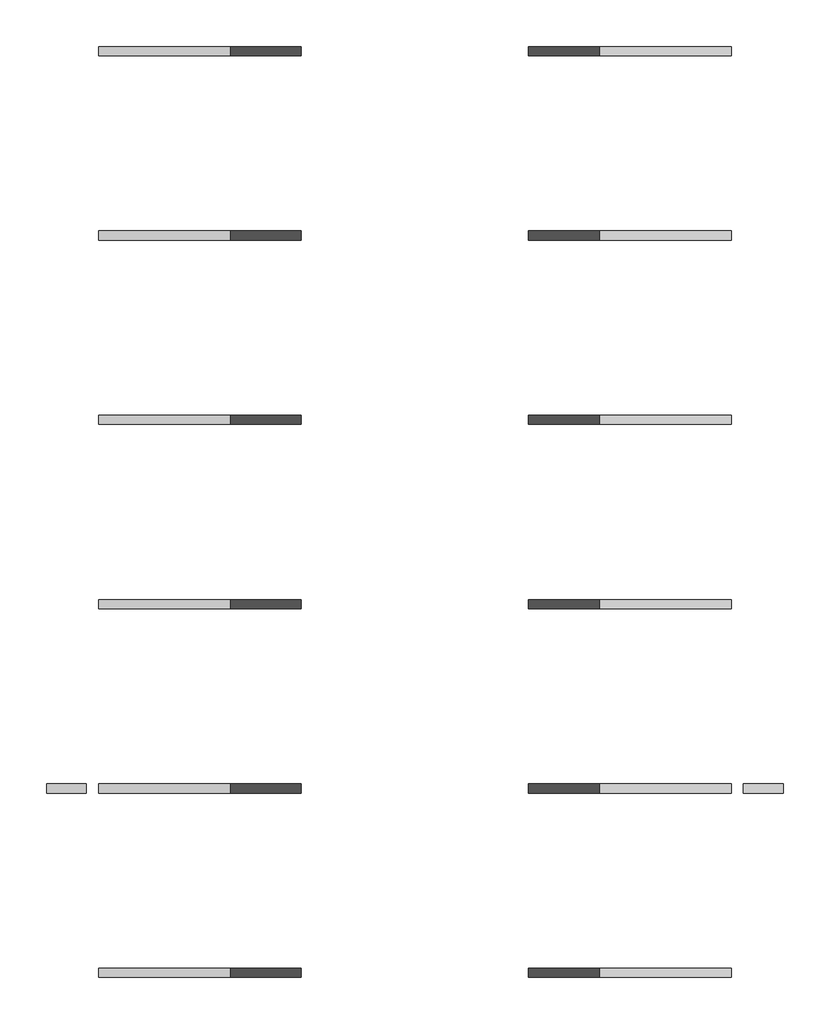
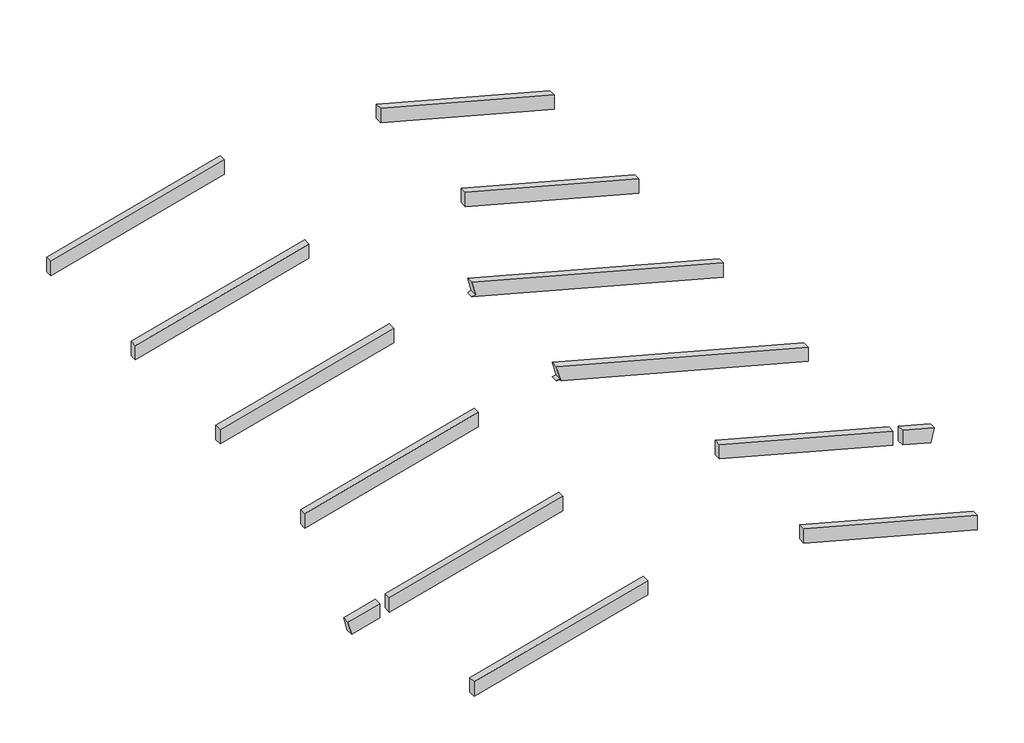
# One storey: 14 beams.
"""IFC4 building model written with IfcOpenShell, lengths in millimetres."""

from ifc_helpers import new_model, si_unit, frame, origin, place, context, project, spatial, polyline, outline, extrude, element, save

model = new_model("IFC4")

# Units and contexts
model_context = context("Model", 3, world=origin())
ifc_project = project(units=[si_unit("LENGTHUNIT", "METRE", prefix="MILLI")], contexts=[model_context])

# Site, building, storey
site = spatial("IfcSite", under=ifc_project)
building = spatial("IfcBuilding", under=site)
storey = spatial("IfcBuildingStorey", under=building, Name="Đỉnh cột +7.200", Elevation=7200.0)

# Beams
placement = place(None, origin())
element("IfcBeam", 1, ObjectType="@BS-Concrete Beam : D300x600", at=placement, inside=storey, context=model_context, shape_type="SweptSolid", body=[
    extrude(outline(polyline([(7253.5898385, 200.0), (6632.4241302, 200.0), (8534.8633965, 7300.0), (9156.0291047, 7300.0), (7253.5898385, 200.0)])), frame((0.0, -150.0, 0.0), z_axis=(0.0, 1.0, 0.0), x_axis=(0.0, 0.0, 1.0)), (0.0, 0.0, 1.0), 300.0),
])
element("IfcBeam", 2, ObjectType="@BS-Concrete Beam : D300x600", at=placement, inside=storey, context=model_context, shape_type="SweptSolid", body=[
    extrude(outline(polyline([(9156.0291047, 13700.0), (8534.8633965, 13700.0), (6632.4241302, 20800.0), (7253.5898385, 20800.0), (9156.0291047, 13700.0)])), frame((0.0, -150.0, 0.0), z_axis=(0.0, 1.0, 0.0), x_axis=(0.0, 0.0, 1.0)), (0.0, 0.0, 1.0), 300.0),
])
element("IfcBeam", 3, ObjectType="@BS-Concrete Beam : D300x600", at=placement, inside=storey, context=model_context, shape_type="SweptSolid", body=[
    extrude(outline(polyline([(7253.5898385, 200.0), (6632.4241302, 200.0), (8534.8633965, 7300.0), (9156.0291047, 7300.0), (7253.5898385, 200.0)])), frame((0.0, 5850.0, 0.0), z_axis=(0.0, 1.0, 0.0), x_axis=(0.0, 0.0, 1.0)), (0.0, 0.0, 1.0), 300.0),
])
element("IfcBeam", 4, ObjectType="@BS-Concrete Beam : D300x600", at=placement, inside=storey, context=model_context, shape_type="SweptSolid", body=[
    extrude(outline(polyline([(9156.0291047, 13700.0), (8534.8633965, 13700.0), (6632.4241302, 20800.0), (7253.5898385, 20800.0), (9156.0291047, 13700.0)])), frame((0.0, 5850.0, 0.0), z_axis=(0.0, 1.0, 0.0), x_axis=(0.0, 0.0, 1.0)), (0.0, 0.0, 1.0), 300.0),
])
element("IfcBeam", 5, ObjectType="@BS-Concrete Beam : D300x600", at=placement, inside=storey, context=model_context, shape_type="SweptSolid", body=[
    extrude(outline(polyline([(6798.0762114, -1500.0), (6218.5207156, -1344.7085729), (6525.2444533, -200.0), (7146.4101615, -200.0), (6798.0762114, -1500.0)])), frame((0.0, 5850.0, 0.0), z_axis=(0.0, 1.0, 0.0), x_axis=(0.0, 0.0, 1.0)), (0.0, 0.0, 1.0), 300.0),
])
element("IfcBeam", 6, ObjectType="@BS-Concrete Beam : D300x600", at=placement, inside=storey, context=model_context, shape_type="SweptSolid", body=[
    extrude(outline(polyline([(6218.5207156, 22344.7085729), (6798.0762114, 22500.0), (7146.4101615, 21200.0), (6525.2444533, 21200.0), (6218.5207156, 22344.7085729)])), frame((0.0, 5850.0, 0.0), z_axis=(0.0, 1.0, 0.0), x_axis=(0.0, 0.0, 1.0)), (0.0, 0.0, 1.0), 300.0),
])
element("IfcBeam", 7, ObjectType="@BS-Concrete Beam : D300x600", at=placement, inside=storey, context=model_context, shape_type="SweptSolid", body=[
    extrude(outline(polyline([(7253.5898385, 200.0), (6632.4241302, 200.0), (8534.8633965, 7300.0), (9156.0291047, 7300.0), (7253.5898385, 200.0)])), frame((0.0, 11850.0, 0.0), z_axis=(0.0, 1.0, 0.0), x_axis=(0.0, 0.0, 1.0)), (0.0, 0.0, 1.0), 300.0),
])
element("IfcBeam", 8, ObjectType="@BS-Concrete Beam : D300x600", at=placement, inside=storey, context=model_context, shape_type="SweptSolid", body=[
    extrude(outline(polyline([(7253.5898385, 20800.0), (10013.4665205, 10500.0), (9433.9110248, 10655.2914271), (9392.3008123, 10500.0), (9392.3008123, 10700.0), (9338.7109738, 10700.0), (6632.4241302, 20800.0), (7253.5898385, 20800.0)])), frame((0.0, 11850.0, 0.0), z_axis=(0.0, 1.0, 0.0), x_axis=(0.0, 0.0, 1.0)), (0.0, 0.0, 1.0), 300.0),
])
element("IfcBeam", 9, ObjectType="@BS-Concrete Beam : D300x600", at=placement, inside=storey, context=model_context, shape_type="SweptSolid", body=[
    extrude(outline(polyline([(7253.5898385, 200.0), (6632.4241302, 200.0), (8534.8633965, 7300.0), (9156.0291047, 7300.0), (7253.5898385, 200.0)])), frame((0.0, 17850.0, 0.0), z_axis=(0.0, 1.0, 0.0), x_axis=(0.0, 0.0, 1.0)), (0.0, 0.0, 1.0), 300.0),
])
element("IfcBeam", 10, ObjectType="@BS-Concrete Beam : D300x600", at=placement, inside=storey, context=model_context, shape_type="SweptSolid", body=[
    extrude(outline(polyline([(7253.5898385, 20800.0), (10013.4665205, 10500.0), (9433.9110248, 10655.2914271), (9392.3008123, 10500.0), (6632.4241302, 20800.0), (7253.5898385, 20800.0)])), frame((0.0, 17850.0, 0.0), z_axis=(0.0, 1.0, 0.0), x_axis=(0.0, 0.0, 1.0)), (0.0, 0.0, 1.0), 300.0),
])
element("IfcBeam", 11, ObjectType="@BS-Concrete Beam : D300x600", at=placement, inside=storey, context=model_context, shape_type="SweptSolid", body=[
    extrude(outline(polyline([(7253.5898385, 200.0), (6632.4241302, 200.0), (8534.8633965, 7300.0), (9156.0291047, 7300.0), (7253.5898385, 200.0)])), frame((0.0, 23850.0, 0.0), z_axis=(0.0, 1.0, 0.0), x_axis=(0.0, 0.0, 1.0)), (0.0, 0.0, 1.0), 300.0),
])
element("IfcBeam", 12, ObjectType="@BS-Concrete Beam : D300x600", at=placement, inside=storey, context=model_context, shape_type="SweptSolid", body=[
    extrude(outline(polyline([(9156.0291047, 13700.0), (8534.8633965, 13700.0), (6632.4241302, 20800.0), (7253.5898385, 20800.0), (9156.0291047, 13700.0)])), frame((0.0, 23850.0, 0.0), z_axis=(0.0, 1.0, 0.0), x_axis=(0.0, 0.0, 1.0)), (0.0, 0.0, 1.0), 300.0),
])
element("IfcBeam", 13, ObjectType="@BS-Concrete Beam : D300x600", at=placement, inside=storey, context=model_context, shape_type="SweptSolid", body=[
    extrude(outline(polyline([(7253.5898385, 200.0), (6632.4241302, 200.0), (8534.8633965, 7300.0), (9156.0291047, 7300.0), (7253.5898385, 200.0)])), frame((0.0, 29850.0, 0.0), z_axis=(0.0, 1.0, 0.0), x_axis=(0.0, 0.0, 1.0)), (0.0, 0.0, 1.0), 300.0),
])
element("IfcBeam", 14, ObjectType="@BS-Concrete Beam : D300x600", at=placement, inside=storey, context=model_context, shape_type="SweptSolid", body=[
    extrude(outline(polyline([(9156.0291047, 13700.0), (8534.8633965, 13700.0), (6632.4241302, 20800.0), (7253.5898385, 20800.0), (9156.0291047, 13700.0)])), frame((0.0, 29850.0, 0.0), z_axis=(0.0, 1.0, 0.0), x_axis=(0.0, 0.0, 1.0)), (0.0, 0.0, 1.0), 300.0),
])

save(model, "model.ifc")
